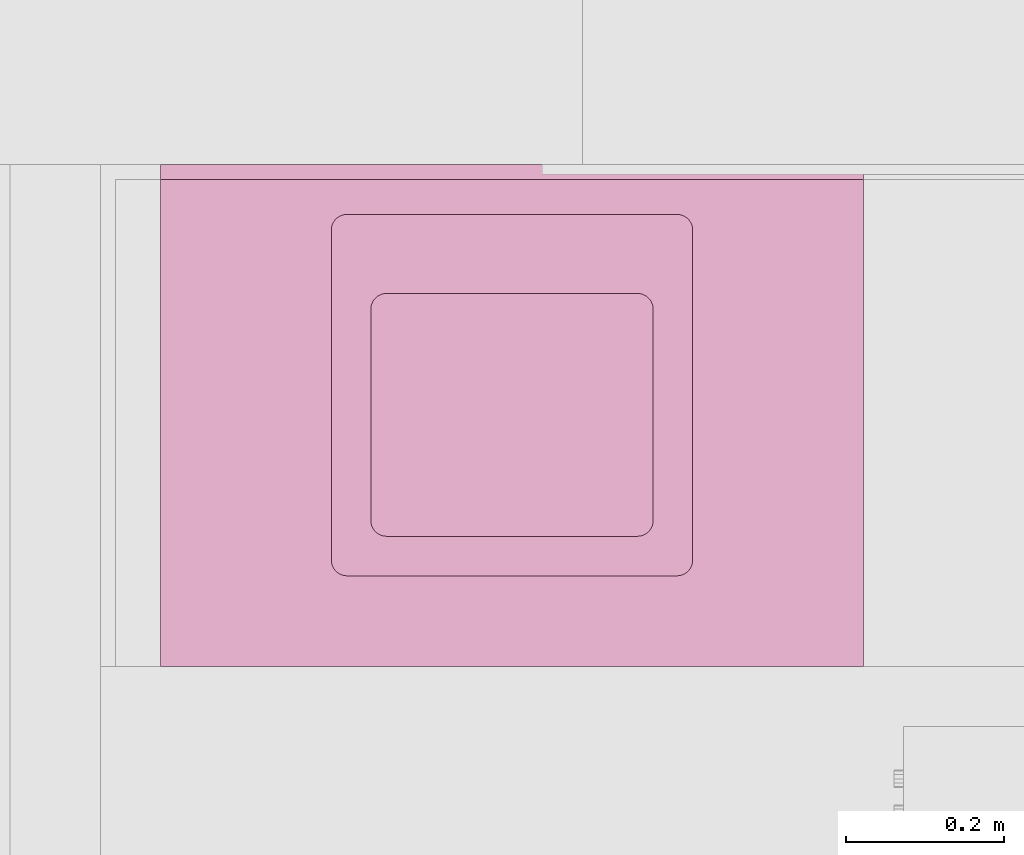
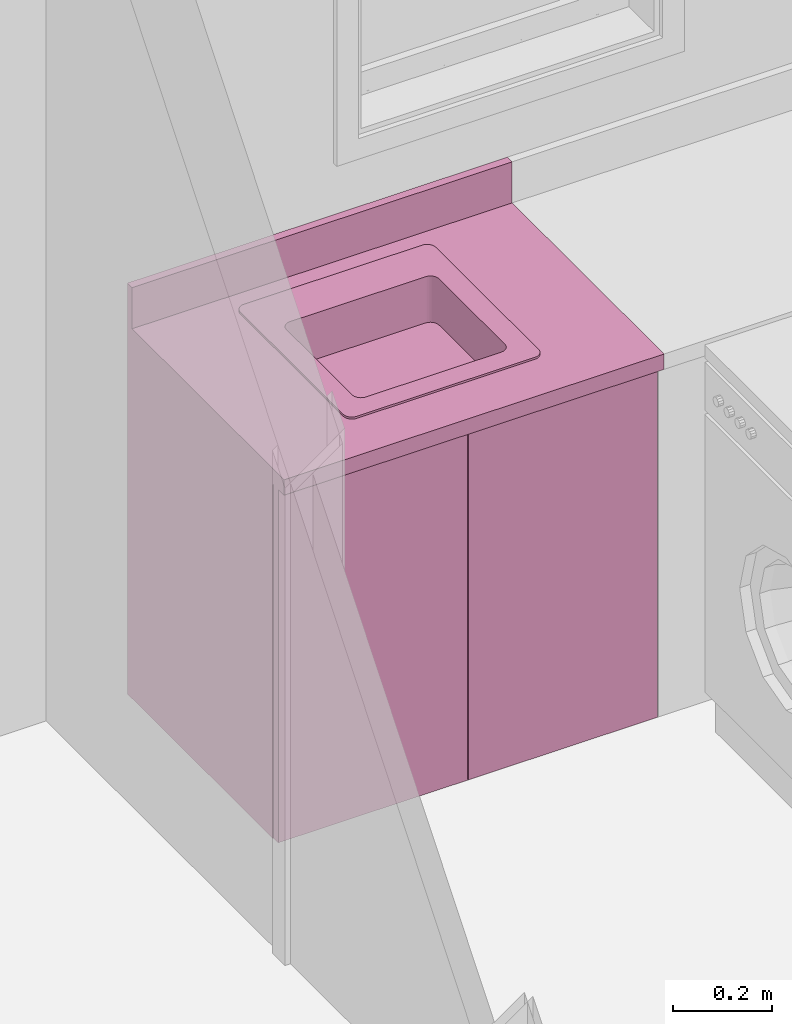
# One storey, part 53 of 103: 1 furnishing.
"""IFC2X3 building model written with IfcOpenShell, lengths in inches."""

from ifc_helpers import new_model, entity, si_unit, converted_unit, derived_unit, money_unit, direction, frame, origin_with_axes, place, context, subcontext, project, spatial, open_shell, faceted_brep, surface_model, type_object, element, save


model = new_model("IFC2X3")

# Units and contexts
model_context = context("Model", 3, precision=0.00039370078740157, world=origin_with_axes(), true_north=direction((0.0, 1.0)))
plan_context = context("Plan", 3, precision=0.00039370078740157, world=origin_with_axes(), true_north=direction((0.0, 1.0)))
body_context = subcontext(model_context, "Body", "Model", "MODEL_VIEW")
ifc_project = project(units=[converted_unit("LENGTHUNIT", "INCH", entity("IfcPositiveLengthMeasure", 0.0254), si_unit("LENGTHUNIT", "METRE"), dimensions=[1, 0, 0, 0, 0, 0, 0]), converted_unit("AREAUNIT", "SQUARE_FOOT", entity("IfcPositiveLengthMeasure", 0.09290304), si_unit("AREAUNIT", "SQUARE_METRE"), dimensions=[2, 0, 0, 0, 0, 0, 0]), si_unit("PLANEANGLEUNIT", "RADIAN"), si_unit("SOLIDANGLEUNIT", "STERADIAN"), money_unit("USD"), converted_unit("TIMEUNIT", "Year", entity("IfcTimeMeasure", 31557600.0), si_unit("TIMEUNIT", "SECOND"), dimensions=[0, 0, 1, 0, 0, 0, 0]), si_unit("MASSUNIT", "GRAM", prefix="KILO"), si_unit("THERMODYNAMICTEMPERATUREUNIT", "DEGREE_CELSIUS"), si_unit("LUMINOUSINTENSITYUNIT", "LUMEN"), si_unit("ENERGYUNIT", "JOULE", prefix="MEGA"), derived_unit("SPECIFICHEATCAPACITYUNIT", [(si_unit("ENERGYUNIT", "JOULE"), 1), (si_unit("MASSUNIT", "GRAM", prefix="KILO"), -1), (si_unit("THERMODYNAMICTEMPERATUREUNIT", "KELVIN"), -1)])], contexts=[model_context, plan_context])

# Site, building, storey
site_placement = place(None, origin_with_axes())
site = spatial("IfcSite", under=ifc_project, at=site_placement, Name="Site", CompositionType="ELEMENT")
building_placement = place(site_placement, origin_with_axes())
building = spatial("IfcBuilding", under=site, at=building_placement, Name="Building", CompositionType="ELEMENT")
storey_placement = place(building_placement, frame((0.0, 0.0, 127.9999999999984), z_axis=(0.0, 0.0, 1.0), x_axis=(1.0, 0.0, 0.0)))
storey = spatial("IfcBuildingStorey", under=building, at=storey_placement, Name="Second Floor", CompositionType="ELEMENT", Elevation=128.0)

# Furnishing
furniture_type = type_object("IfcFurnitureType", Name="Base Cabinet Block", AssemblyPlace="NOTDEFINED")
furnishing_placement = place(storey_placement, frame((167.9999999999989, 568.0000000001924, 0.0), z_axis=(0.0, 0.0, 1.0), x_axis=(1.0, 0.0, 0.0)))
element("IfcFurnishingElement", 1, at=furnishing_placement, inside=storey, type_object=furniture_type, Name="OBJ-16", context=body_context, shape_type="SurfaceModel", body=[
    faceted_brep([(0.0, 0.0, 34.49999999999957), (34.99999999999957, 0.0, 34.49999999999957), (34.99999999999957, -24.99999999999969, 34.49999999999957), (0.0, -24.99999999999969, 34.49999999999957), (25.70063602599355, -19.05602218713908, 34.49999999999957), (25.71259842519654, -18.91929133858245, 34.49999999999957), (25.71259842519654, -4.068897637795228, 34.49999999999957), (25.70063602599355, -3.932166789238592, 34.49999999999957), (25.66511229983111, -3.7995904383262, 34.49999999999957), (25.60710661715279, -3.675196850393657, 34.49999999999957), (25.52838145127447, -3.5627656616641, 34.49999999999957), (25.43132882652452, -3.465713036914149, 34.49999999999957), (25.31889763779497, -3.386987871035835, 34.49999999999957), (25.19450404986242, -3.328982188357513, 34.49999999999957), (25.06192769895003, -3.293458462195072, 34.49999999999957), (24.92519685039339, -3.281496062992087, 34.49999999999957), (10.07480314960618, -3.281496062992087, 34.49999999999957), (9.93807230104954, -3.293458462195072, 34.49999999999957), (9.805495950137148, -3.328982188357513, 34.49999999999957), (9.681102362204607, -3.386987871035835, 34.49999999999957), (9.568671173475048, -3.465713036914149, 34.49999999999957), (9.471618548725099, -3.5627656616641, 34.49999999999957), (9.392893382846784, -3.675196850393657, 34.49999999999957), (9.334887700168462, -3.7995904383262, 34.49999999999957), (9.299363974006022, -3.932166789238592, 34.49999999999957), (9.287401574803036, -4.068897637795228, 34.49999999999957), (9.287401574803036, -18.91929133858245, 34.49999999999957), (9.29936397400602, -19.05602218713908, 34.49999999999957), (9.334887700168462, -19.18859853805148, 34.49999999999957), (9.392893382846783, -19.31299212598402, 34.49999999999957), (9.471618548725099, -19.42542331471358, 34.49999999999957), (9.568671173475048, -19.52247593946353, 34.49999999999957), (9.681102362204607, -19.60120110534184, 34.49999999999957), (9.805495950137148, -19.65920678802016, 34.49999999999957), (9.93807230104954, -19.6947305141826, 34.49999999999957), (10.07480314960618, -19.70669291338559, 34.49999999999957), (24.92519685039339, -19.70669291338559, 34.49999999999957), (25.06192769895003, -19.6947305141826, 34.49999999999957), (25.19450404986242, -19.65920678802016, 34.49999999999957), (25.31889763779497, -19.60120110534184, 34.49999999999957), (25.43132882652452, -19.52247593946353, 34.49999999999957), (25.52838145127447, -19.42542331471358, 34.49999999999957), (25.60710661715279, -19.31299212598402, 34.49999999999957), (25.66511229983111, -19.18859853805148, 34.49999999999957), (0.0, 0.0, 35.99999999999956), (34.99999999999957, 0.0, 35.99999999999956), (34.99999999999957, -24.99999999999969, 35.99999999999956), (0.0, -24.99999999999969, 35.99999999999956), (25.70063602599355, -19.05602218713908, 35.99999999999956), (25.71259842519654, -18.91929133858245, 35.99999999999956), (25.71259842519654, -4.068897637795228, 35.99999999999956), (25.70063602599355, -3.932166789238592, 35.99999999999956), (25.66511229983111, -3.7995904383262, 35.99999999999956), (25.60710661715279, -3.675196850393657, 35.99999999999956), (25.52838145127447, -3.5627656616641, 35.99999999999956), (25.43132882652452, -3.465713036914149, 35.99999999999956), (25.31889763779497, -3.386987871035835, 35.99999999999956), (25.19450404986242, -3.328982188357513, 35.99999999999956), (25.06192769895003, -3.293458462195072, 35.99999999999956), (24.92519685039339, -3.281496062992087, 35.99999999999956), (10.07480314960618, -3.281496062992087, 35.99999999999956), (9.93807230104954, -3.293458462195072, 35.99999999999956), (9.805495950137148, -3.328982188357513, 35.99999999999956), (9.681102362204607, -3.386987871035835, 35.99999999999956), (9.568671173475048, -3.465713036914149, 35.99999999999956), (9.471618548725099, -3.5627656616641, 35.99999999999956), (9.392893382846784, -3.675196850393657, 35.99999999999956), (9.334887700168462, -3.7995904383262, 35.99999999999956), (9.299363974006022, -3.932166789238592, 35.99999999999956), (9.287401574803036, -4.068897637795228, 35.99999999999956), (9.287401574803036, -18.91929133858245, 35.99999999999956), (9.29936397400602, -19.05602218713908, 35.99999999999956), (9.334887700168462, -19.18859853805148, 35.99999999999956), (9.392893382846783, -19.31299212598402, 35.99999999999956), (9.471618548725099, -19.42542331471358, 35.99999999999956), (9.568671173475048, -19.52247593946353, 35.99999999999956), (9.681102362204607, -19.60120110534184, 35.99999999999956), (9.805495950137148, -19.65920678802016, 35.99999999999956), (9.93807230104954, -19.6947305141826, 35.99999999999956), (10.07480314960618, -19.70669291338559, 35.99999999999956), (24.92519685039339, -19.70669291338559, 35.99999999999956), (25.06192769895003, -19.6947305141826, 35.99999999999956), (25.19450404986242, -19.65920678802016, 35.99999999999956), (25.31889763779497, -19.60120110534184, 35.99999999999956), (25.43132882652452, -19.52247593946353, 35.99999999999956), (25.52838145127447, -19.42542331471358, 35.99999999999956), (25.60710661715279, -19.31299212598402, 35.99999999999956), (25.66511229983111, -19.18859853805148, 35.99999999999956)], [[[0, 1, 2, 3], [4, 5, 6, 7, 8, 9, 10, 11, 12, 13, 14, 15, 16, 17, 18, 19, 20, 21, 22, 23, 24, 25, 26, 27, 28, 29, 30, 31, 32, 33, 34, 35, 36, 37, 38, 39, 40, 41, 42, 43]], [[0, 44, 45, 1]], [[1, 45, 46, 2]], [[2, 46, 47, 3]], [[3, 47, 44, 0]], [[48, 49, 5, 4]], [[49, 50, 6, 5]], [[50, 51, 7, 6]], [[51, 52, 8, 7]], [[52, 53, 9, 8]], [[53, 54, 10, 9]], [[54, 55, 11, 10]], [[55, 56, 12, 11]], [[56, 57, 13, 12]], [[57, 58, 14, 13]], [[58, 59, 15, 14]], [[59, 60, 16, 15]], [[60, 61, 17, 16]], [[61, 62, 18, 17]], [[62, 63, 19, 18]], [[63, 64, 20, 19]], [[64, 65, 21, 20]], [[65, 66, 22, 21]], [[66, 67, 23, 22]], [[67, 68, 24, 23]], [[68, 69, 25, 24]], [[69, 70, 26, 25]], [[70, 71, 27, 26]], [[71, 72, 28, 27]], [[72, 73, 29, 28]], [[73, 74, 30, 29]], [[74, 75, 31, 30]], [[75, 76, 32, 31]], [[76, 77, 33, 32]], [[77, 78, 34, 33]], [[78, 79, 35, 34]], [[79, 80, 36, 35]], [[80, 81, 37, 36]], [[81, 82, 38, 37]], [[82, 83, 39, 38]], [[83, 84, 40, 39]], [[84, 85, 41, 40]], [[85, 86, 42, 41]], [[86, 87, 43, 42]], [[87, 48, 4, 43]], [[46, 45, 44, 47], [52, 51, 50, 49, 48, 87, 86, 85, 84, 83, 82, 81, 80, 79, 78, 77, 76, 75, 74, 73, 72, 71, 70, 69, 68, 67, 66, 65, 64, 63, 62, 61, 60, 59, 58, 57, 56, 55, 54, 53]]]),
    faceted_brep([(34.99999999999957, 0.0, 35.99999999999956), (34.99999999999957, -0.7499999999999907, 35.99999999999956), (0.0, -0.7499999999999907, 35.99999999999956), (0.0, 0.0, 35.99999999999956), (34.99999999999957, 0.0, 39.99999999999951), (34.99999999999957, -0.7499999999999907, 39.99999999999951), (0.0, -0.7499999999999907, 39.99999999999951), (0.0, 0.0, 39.99999999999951)], [[[0, 1, 2, 3]], [[0, 4, 5, 1]], [[1, 5, 6, 2]], [[3, 2, 6, 7]], [[4, 0, 3, 7]], [[5, 4, 7, 6]]]),
    surface_model("IfcShellBasedSurfaceModel", [(11.25590551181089, -18.52559055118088, 31.6968503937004), (23.74409448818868, -18.52559055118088, 31.6968503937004), (23.74409448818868, -18.52559055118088, 35.99999999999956), (11.25590551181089, -18.52559055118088, 35.99999999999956), (11.11917466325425, -18.51362815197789, 31.6968503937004), (10.98659831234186, -18.47810442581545, 31.6968503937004), (10.86220472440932, -18.42009874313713, 31.6968503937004), (10.74977353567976, -18.34137357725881, 31.6968503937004), (10.65272091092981, -18.24432095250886, 31.6968503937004), (10.57399574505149, -18.13188976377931, 31.6968503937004), (10.51599006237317, -18.00749617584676, 31.6968503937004), (10.48046633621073, -17.87491982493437, 31.6968503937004), (10.46850393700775, -17.73818897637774, 31.6968503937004), (10.46850393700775, -7.218503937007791, 31.6968503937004), (10.48046633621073, -7.081773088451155, 31.6968503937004), (10.51599006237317, -6.949196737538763, 31.6968503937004), (10.57399574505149, -6.82480314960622, 31.6968503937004), (10.65272091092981, -6.712371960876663, 31.6968503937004), (10.74977353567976, -6.615319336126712, 31.6968503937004), (10.86220472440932, -6.536594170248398, 31.6968503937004), (10.98659831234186, -6.478588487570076, 31.6968503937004), (11.11917466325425, -6.443064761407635, 31.6968503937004), (11.25590551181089, -6.431102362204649, 31.6968503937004), (23.74409448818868, -6.431102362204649, 31.6968503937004), (23.88082533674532, -6.443064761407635, 31.6968503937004), (24.01340168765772, -6.478588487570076, 31.6968503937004), (24.13779527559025, -6.536594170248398, 31.6968503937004), (24.25022646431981, -6.615319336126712, 31.6968503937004), (24.34727908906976, -6.712371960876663, 31.6968503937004), (24.42600425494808, -6.82480314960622, 31.6968503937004), (24.4840099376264, -6.949196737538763, 31.6968503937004), (24.51953366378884, -7.081773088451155, 31.6968503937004), (24.53149606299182, -7.218503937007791, 31.6968503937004), (24.53149606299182, -17.73818897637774, 31.6968503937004), (24.51953366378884, -17.87491982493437, 31.6968503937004), (24.4840099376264, -18.00749617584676, 31.6968503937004), (24.42600425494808, -18.13188976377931, 31.6968503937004), (24.34727908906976, -18.24432095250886, 31.6968503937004), (24.25022646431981, -18.34137357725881, 31.6968503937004), (24.13779527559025, -18.42009874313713, 31.6968503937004), (24.01340168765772, -18.47810442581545, 31.6968503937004), (23.88082533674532, -18.51362815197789, 31.6968503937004), (23.88082533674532, -18.51362815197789, 35.99999999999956), (11.11917466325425, -18.51362815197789, 35.99999999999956), (10.98659831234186, -18.47810442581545, 35.99999999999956), (10.86220472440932, -18.42009874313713, 35.99999999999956), (10.74977353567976, -18.34137357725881, 35.99999999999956), (10.65272091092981, -18.24432095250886, 35.99999999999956), (10.57399574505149, -18.13188976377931, 35.99999999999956), (10.51599006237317, -18.00749617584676, 35.99999999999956), (10.48046633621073, -17.87491982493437, 35.99999999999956), (10.46850393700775, -17.73818897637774, 35.99999999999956), (10.46850393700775, -7.218503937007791, 35.99999999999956), (10.48046633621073, -7.081773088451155, 35.99999999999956), (10.51599006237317, -6.949196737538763, 35.99999999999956), (10.57399574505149, -6.82480314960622, 35.99999999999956), (10.65272091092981, -6.712371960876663, 35.99999999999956), (10.74977353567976, -6.615319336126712, 35.99999999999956), (10.86220472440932, -6.536594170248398, 35.99999999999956), (10.98659831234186, -6.478588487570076, 35.99999999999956), (11.11917466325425, -6.443064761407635, 35.99999999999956), (11.25590551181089, -6.431102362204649, 35.99999999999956), (23.74409448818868, -6.431102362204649, 35.99999999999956), (23.88082533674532, -6.443064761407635, 35.99999999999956), (24.01340168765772, -6.478588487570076, 35.99999999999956), (24.13779527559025, -6.536594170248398, 35.99999999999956), (24.25022646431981, -6.615319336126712, 35.99999999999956), (24.34727908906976, -6.712371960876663, 35.99999999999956), (24.42600425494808, -6.82480314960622, 35.99999999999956), (24.4840099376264, -6.949196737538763, 35.99999999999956), (24.51953366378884, -7.081773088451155, 35.99999999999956), (24.53149606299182, -7.218503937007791, 35.99999999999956), (24.53149606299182, -17.73818897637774, 35.99999999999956), (24.51953366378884, -17.87491982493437, 35.99999999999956), (24.4840099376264, -18.00749617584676, 35.99999999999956), (24.42600425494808, -18.13188976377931, 35.99999999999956), (24.34727908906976, -18.24432095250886, 35.99999999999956), (24.25022646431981, -18.34137357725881, 35.99999999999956), (24.13779527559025, -18.42009874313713, 35.99999999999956), (24.01340168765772, -18.47810442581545, 35.99999999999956)], [open_shell([[[0, 1, 2, 3]], [[0, 4, 5, 6, 7, 8, 9, 10, 11, 12, 13, 14, 15, 16, 17, 18, 19, 20, 21, 22, 23, 24, 25, 26, 27, 28, 29, 30, 31, 32, 33, 34, 35, 36, 37, 38, 39, 40, 41, 1]], [[1, 41, 42, 2]], [[4, 0, 3, 43]], [[5, 4, 43, 44]], [[6, 5, 44, 45]], [[7, 6, 45, 46]], [[8, 7, 46, 47]], [[9, 8, 47, 48]], [[10, 9, 48, 49]], [[11, 10, 49, 50]], [[12, 11, 50, 51]], [[13, 12, 51, 52]], [[14, 13, 52, 53]], [[15, 14, 53, 54]], [[16, 15, 54, 55]], [[17, 16, 55, 56]], [[18, 17, 56, 57]], [[19, 18, 57, 58]], [[20, 19, 58, 59]], [[21, 20, 59, 60]], [[22, 21, 60, 61]], [[23, 22, 61, 62]], [[24, 23, 62, 63]], [[25, 24, 63, 64]], [[26, 25, 64, 65]], [[27, 26, 65, 66]], [[28, 27, 66, 67]], [[29, 28, 67, 68]], [[30, 29, 68, 69]], [[31, 30, 69, 70]], [[32, 31, 70, 71]], [[33, 32, 71, 72]], [[34, 33, 72, 73]], [[35, 34, 73, 74]], [[36, 35, 74, 75]], [[37, 36, 75, 76]], [[38, 37, 76, 77]], [[39, 38, 77, 78]], [[40, 39, 78, 79]], [[41, 40, 79, 42]]])]),
    faceted_brep([(9.287401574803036, -20.49409448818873, 35.99999999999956), (25.71259842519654, -20.49409448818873, 35.99999999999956), (25.71259842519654, -20.49409448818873, 36.19685039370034), (9.287401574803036, -20.49409448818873, 36.19685039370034), (9.1506707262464, -20.48213208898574, 35.99999999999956), (9.018094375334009, -20.4466083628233, 35.99999999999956), (8.893700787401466, -20.38860268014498, 35.99999999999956), (8.781269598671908, -20.30987751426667, 35.99999999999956), (8.684216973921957, -20.21282488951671, 35.99999999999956), (8.605491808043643, -20.10039370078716, 35.99999999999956), (8.547486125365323, -19.97600011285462, 35.99999999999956), (8.511962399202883, -19.84342376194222, 35.99999999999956), (8.499999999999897, -19.70669291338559, 35.99999999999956), (8.499999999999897, -3.28149606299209, 35.99999999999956), (8.511962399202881, -3.144765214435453, 35.99999999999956), (8.547486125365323, -3.012188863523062, 35.99999999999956), (8.605491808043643, -2.887795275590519, 35.99999999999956), (8.684216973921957, -2.775364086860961, 35.99999999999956), (8.781269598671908, -2.678311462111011, 35.99999999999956), (8.893700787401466, -2.599586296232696, 35.99999999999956), (9.018094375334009, -2.541580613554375, 35.99999999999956), (9.1506707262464, -2.506056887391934, 35.99999999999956), (9.287401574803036, -2.494094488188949, 35.99999999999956), (25.71259842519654, -2.494094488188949, 35.99999999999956), (25.84932927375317, -2.506056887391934, 35.99999999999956), (25.98190562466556, -2.541580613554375, 35.99999999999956), (26.10629921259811, -2.599586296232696, 35.99999999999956), (26.21873040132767, -2.678311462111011, 35.99999999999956), (26.31578302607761, -2.775364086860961, 35.99999999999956), (26.39450819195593, -2.887795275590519, 35.99999999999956), (26.45251387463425, -3.012188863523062, 35.99999999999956), (26.48803760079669, -3.144765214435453, 35.99999999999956), (26.49999999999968, -3.28149606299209, 35.99999999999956), (26.49999999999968, -19.70669291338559, 35.99999999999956), (26.48803760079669, -19.84342376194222, 35.99999999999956), (26.45251387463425, -19.97600011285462, 35.99999999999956), (26.39450819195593, -20.10039370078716, 35.99999999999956), (26.31578302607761, -20.21282488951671, 35.99999999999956), (26.21873040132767, -20.30987751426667, 35.99999999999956), (26.10629921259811, -20.38860268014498, 35.99999999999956), (25.98190562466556, -20.4466083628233, 35.99999999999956), (25.84932927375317, -20.48213208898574, 35.99999999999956), (11.25590551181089, -18.52559055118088, 35.99999999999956), (23.74409448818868, -18.52559055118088, 35.99999999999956), (23.88082533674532, -18.51362815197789, 35.99999999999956), (24.01340168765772, -18.47810442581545, 35.99999999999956), (24.13779527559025, -18.42009874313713, 35.99999999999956), (24.25022646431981, -18.34137357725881, 35.99999999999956), (24.34727908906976, -18.24432095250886, 35.99999999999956), (24.42600425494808, -18.13188976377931, 35.99999999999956), (24.4840099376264, -18.00749617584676, 35.99999999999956), (24.51953366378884, -17.87491982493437, 35.99999999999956), (24.53149606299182, -17.73818897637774, 35.99999999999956), (24.53149606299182, -7.218503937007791, 35.99999999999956), (24.51953366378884, -7.081773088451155, 35.99999999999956), (24.4840099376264, -6.949196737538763, 35.99999999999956), (24.42600425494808, -6.82480314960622, 35.99999999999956), (24.34727908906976, -6.712371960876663, 35.99999999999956), (24.25022646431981, -6.615319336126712, 35.99999999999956), (24.13779527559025, -6.536594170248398, 35.99999999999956), (24.01340168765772, -6.478588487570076, 35.99999999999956), (23.88082533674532, -6.443064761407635, 35.99999999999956), (23.74409448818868, -6.431102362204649, 35.99999999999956), (11.25590551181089, -6.431102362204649, 35.99999999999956), (11.11917466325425, -6.443064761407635, 35.99999999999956), (10.98659831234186, -6.478588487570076, 35.99999999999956), (10.86220472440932, -6.536594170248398, 35.99999999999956), (10.74977353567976, -6.615319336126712, 35.99999999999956), (10.65272091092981, -6.712371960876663, 35.99999999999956), (10.57399574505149, -6.82480314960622, 35.99999999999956), (10.51599006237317, -6.949196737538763, 35.99999999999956), (10.48046633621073, -7.081773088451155, 35.99999999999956), (10.46850393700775, -7.218503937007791, 35.99999999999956), (10.46850393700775, -17.73818897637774, 35.99999999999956), (10.48046633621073, -17.87491982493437, 35.99999999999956), (10.51599006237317, -18.00749617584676, 35.99999999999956), (10.57399574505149, -18.13188976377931, 35.99999999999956), (10.65272091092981, -18.24432095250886, 35.99999999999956), (10.74977353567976, -18.34137357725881, 35.99999999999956), (10.86220472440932, -18.42009874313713, 35.99999999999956), (10.98659831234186, -18.47810442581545, 35.99999999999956), (11.11917466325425, -18.51362815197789, 35.99999999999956), (25.84932927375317, -20.48213208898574, 36.19685039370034), (25.98190562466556, -20.4466083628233, 36.19685039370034), (26.10629921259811, -20.38860268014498, 36.19685039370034), (26.21873040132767, -20.30987751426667, 36.19685039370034), (26.31578302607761, -20.21282488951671, 36.19685039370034), (26.39450819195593, -20.10039370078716, 36.19685039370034), (26.45251387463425, -19.97600011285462, 36.19685039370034), (26.48803760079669, -19.84342376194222, 36.19685039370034), (26.49999999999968, -19.70669291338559, 36.19685039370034), (26.49999999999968, -3.28149606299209, 36.19685039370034), (26.48803760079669, -3.144765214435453, 36.19685039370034), (26.45251387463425, -3.012188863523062, 36.19685039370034), (26.39450819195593, -2.887795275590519, 36.19685039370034), (26.31578302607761, -2.775364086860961, 36.19685039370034), (26.21873040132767, -2.678311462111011, 36.19685039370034), (26.10629921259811, -2.599586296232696, 36.19685039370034), (25.98190562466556, -2.541580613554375, 36.19685039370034), (25.84932927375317, -2.506056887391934, 36.19685039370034), (25.71259842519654, -2.494094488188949, 36.19685039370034), (9.287401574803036, -2.494094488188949, 36.19685039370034), (9.1506707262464, -2.506056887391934, 36.19685039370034), (9.018094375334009, -2.541580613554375, 36.19685039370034), (8.893700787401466, -2.599586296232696, 36.19685039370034), (8.781269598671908, -2.678311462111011, 36.19685039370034), (8.684216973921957, -2.775364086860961, 36.19685039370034), (8.605491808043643, -2.887795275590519, 36.19685039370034), (8.547486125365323, -3.012188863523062, 36.19685039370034), (8.511962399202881, -3.144765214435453, 36.19685039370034), (8.499999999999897, -3.28149606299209, 36.19685039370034), (8.499999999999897, -19.70669291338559, 36.19685039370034), (8.511962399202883, -19.84342376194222, 36.19685039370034), (8.547486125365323, -19.97600011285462, 36.19685039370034), (8.605491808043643, -20.10039370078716, 36.19685039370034), (8.684216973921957, -20.21282488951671, 36.19685039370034), (8.781269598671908, -20.30987751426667, 36.19685039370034), (8.893700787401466, -20.38860268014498, 36.19685039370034), (9.018094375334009, -20.4466083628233, 36.19685039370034), (9.1506707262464, -20.48213208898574, 36.19685039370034), (11.25590551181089, -18.52559055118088, 36.19685039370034), (11.11917466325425, -18.51362815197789, 36.19685039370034), (10.98659831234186, -18.47810442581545, 36.19685039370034), (10.86220472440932, -18.42009874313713, 36.19685039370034), (10.74977353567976, -18.34137357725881, 36.19685039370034), (10.65272091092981, -18.24432095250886, 36.19685039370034), (10.57399574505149, -18.13188976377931, 36.19685039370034), (10.51599006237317, -18.00749617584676, 36.19685039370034), (10.48046633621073, -17.87491982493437, 36.19685039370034), (10.46850393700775, -17.73818897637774, 36.19685039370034), (10.46850393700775, -7.218503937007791, 36.19685039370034), (10.48046633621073, -7.081773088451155, 36.19685039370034), (10.51599006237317, -6.949196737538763, 36.19685039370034), (10.57399574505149, -6.82480314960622, 36.19685039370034), (10.65272091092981, -6.712371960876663, 36.19685039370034), (10.74977353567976, -6.615319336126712, 36.19685039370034), (10.86220472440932, -6.536594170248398, 36.19685039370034), (10.98659831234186, -6.478588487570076, 36.19685039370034), (11.11917466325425, -6.443064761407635, 36.19685039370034), (11.25590551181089, -6.431102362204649, 36.19685039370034), (23.74409448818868, -6.431102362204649, 36.19685039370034), (23.88082533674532, -6.443064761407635, 36.19685039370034), (24.01340168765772, -6.478588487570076, 36.19685039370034), (24.13779527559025, -6.536594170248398, 36.19685039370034), (24.25022646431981, -6.615319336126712, 36.19685039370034), (24.34727908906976, -6.712371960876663, 36.19685039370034), (24.42600425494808, -6.82480314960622, 36.19685039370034), (24.4840099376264, -6.949196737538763, 36.19685039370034), (24.51953366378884, -7.081773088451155, 36.19685039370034), (24.53149606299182, -7.218503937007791, 36.19685039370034), (24.53149606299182, -17.73818897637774, 36.19685039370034), (24.51953366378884, -17.87491982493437, 36.19685039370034), (24.4840099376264, -18.00749617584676, 36.19685039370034), (24.42600425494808, -18.13188976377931, 36.19685039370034), (24.34727908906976, -18.24432095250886, 36.19685039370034), (24.25022646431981, -18.34137357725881, 36.19685039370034), (24.13779527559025, -18.42009874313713, 36.19685039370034), (24.01340168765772, -18.47810442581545, 36.19685039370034), (23.88082533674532, -18.51362815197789, 36.19685039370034), (23.74409448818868, -18.52559055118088, 36.19685039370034)], [[[0, 1, 2, 3]], [[0, 4, 5, 6, 7, 8, 9, 10, 11, 12, 13, 14, 15, 16, 17, 18, 19, 20, 21, 22, 23, 24, 25, 26, 27, 28, 29, 30, 31, 32, 33, 34, 35, 36, 37, 38, 39, 40, 41, 1], [42, 43, 44, 45, 46, 47, 48, 49, 50, 51, 52, 53, 54, 55, 56, 57, 58, 59, 60, 61, 62, 63, 64, 65, 66, 67, 68, 69, 70, 71, 72, 73, 74, 75, 76, 77, 78, 79, 80, 81]], [[1, 41, 82, 2]], [[3, 2, 82, 83, 84, 85, 86, 87, 88, 89, 90, 91, 92, 93, 94, 95, 96, 97, 98, 99, 100, 101, 102, 103, 104, 105, 106, 107, 108, 109, 110, 111, 112, 113, 114, 115, 116, 117, 118, 119], [120, 121, 122, 123, 124, 125, 126, 127, 128, 129, 130, 131, 132, 133, 134, 135, 136, 137, 138, 139, 140, 141, 142, 143, 144, 145, 146, 147, 148, 149, 150, 151, 152, 153, 154, 155, 156, 157, 158, 159]], [[4, 0, 3, 119]], [[5, 4, 119, 118]], [[6, 5, 118, 117]], [[7, 6, 117, 116]], [[8, 7, 116, 115]], [[9, 8, 115, 114]], [[10, 9, 114, 113]], [[11, 10, 113, 112]], [[12, 11, 112, 111]], [[13, 12, 111, 110]], [[14, 13, 110, 109]], [[15, 14, 109, 108]], [[16, 15, 108, 107]], [[17, 16, 107, 106]], [[18, 17, 106, 105]], [[19, 18, 105, 104]], [[20, 19, 104, 103]], [[21, 20, 103, 102]], [[22, 21, 102, 101]], [[23, 22, 101, 100]], [[24, 23, 100, 99]], [[25, 24, 99, 98]], [[26, 25, 98, 97]], [[27, 26, 97, 96]], [[28, 27, 96, 95]], [[29, 28, 95, 94]], [[30, 29, 94, 93]], [[31, 30, 93, 92]], [[32, 31, 92, 91]], [[33, 32, 91, 90]], [[34, 33, 90, 89]], [[35, 34, 89, 88]], [[36, 35, 88, 87]], [[37, 36, 87, 86]], [[38, 37, 86, 85]], [[39, 38, 85, 84]], [[40, 39, 84, 83]], [[41, 40, 83, 82]], [[43, 42, 120, 159]], [[44, 43, 159, 158]], [[45, 44, 158, 157]], [[46, 45, 157, 156]], [[47, 46, 156, 155]], [[48, 47, 155, 154]], [[49, 48, 154, 153]], [[50, 49, 153, 152]], [[51, 50, 152, 151]], [[52, 51, 151, 150]], [[53, 52, 150, 149]], [[54, 53, 149, 148]], [[55, 54, 148, 147]], [[56, 55, 147, 146]], [[57, 56, 146, 145]], [[58, 57, 145, 144]], [[59, 58, 144, 143]], [[60, 59, 143, 142]], [[61, 60, 142, 141]], [[62, 61, 141, 140]], [[63, 62, 140, 139]], [[64, 63, 139, 138]], [[65, 64, 138, 137]], [[66, 65, 137, 136]], [[67, 66, 136, 135]], [[68, 67, 135, 134]], [[69, 68, 134, 133]], [[70, 69, 133, 132]], [[71, 70, 132, 131]], [[72, 71, 131, 130]], [[73, 72, 130, 129]], [[74, 73, 129, 128]], [[75, 74, 128, 127]], [[76, 75, 127, 126]], [[77, 76, 126, 125]], [[78, 77, 125, 124]], [[79, 78, 124, 123]], [[80, 79, 123, 122]], [[81, 80, 122, 121]], [[42, 81, 121, 120]]]),
    faceted_brep([(0.039370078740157, -23.24999999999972, 0.039370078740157), (17.46062992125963, -23.24999999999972, 0.039370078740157), (17.46062992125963, -23.99999999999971, 0.03937007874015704), (0.039370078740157, -23.99999999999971, 0.03937007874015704), (0.039370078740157, -23.24999999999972, 34.46062992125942), (17.46062992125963, -23.24999999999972, 34.46062992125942), (17.46062992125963, -23.9999999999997, 34.46062992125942), (0.039370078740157, -23.9999999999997, 34.46062992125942)], [[[0, 1, 2, 3]], [[0, 4, 5, 1]], [[1, 5, 6, 2]], [[3, 2, 6, 7]], [[4, 0, 3, 7]], [[5, 4, 7, 6]]]),
    faceted_brep([(34.96062992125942, -23.24999999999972, 0.03937007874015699), (34.96062992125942, -23.99999999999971, 0.03937007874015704), (17.53937007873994, -23.99999999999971, 0.0393700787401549), (17.53937007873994, -23.24999999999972, 0.03937007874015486), (34.96062992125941, -23.24999999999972, 34.46062992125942), (34.96062992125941, -23.9999999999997, 34.46062992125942), (17.53937007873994, -23.9999999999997, 34.46062992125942), (17.53937007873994, -23.24999999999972, 34.46062992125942)], [[[0, 1, 2, 3]], [[4, 5, 1, 0]], [[1, 5, 6, 2]], [[3, 2, 6, 7]], [[0, 3, 7, 4]], [[7, 6, 5, 4]]]),
    faceted_brep([(0.7499999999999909, -23.24999999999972, 0.0), (34.24999999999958, -23.24999999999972, 0.0), (34.24999999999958, -23.24999999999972, 0.7499999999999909), (0.7499999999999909, -23.24999999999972, 0.7499999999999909), (0.7499999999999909, 0.0, 0.0), (34.24999999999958, 0.0, 0.0), (34.24999999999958, 0.0, 0.7499999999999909), (0.7499999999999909, 0.0, 0.7499999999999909)], [[[0, 1, 2, 3]], [[0, 4, 5, 1]], [[1, 5, 6, 2]], [[3, 2, 6, 7]], [[4, 0, 3, 7]], [[5, 4, 7, 6]]]),
    faceted_brep([(0.7499999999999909, -23.24999999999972, 33.74999999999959), (0.7499999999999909, -20.8877952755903, 33.74999999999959), (34.24999999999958, -20.8877952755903, 33.74999999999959), (34.24999999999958, -23.24999999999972, 33.74999999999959), (0.7499999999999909, -23.24999999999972, 34.49999999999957), (0.7499999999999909, -20.8877952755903, 34.49999999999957), (34.24999999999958, -20.8877952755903, 34.49999999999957), (34.24999999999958, -23.24999999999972, 34.49999999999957)], [[[0, 1, 2, 3]], [[0, 4, 5, 1]], [[1, 5, 6, 2]], [[3, 2, 6, 7]], [[4, 0, 3, 7]], [[5, 4, 7, 6]]]),
    faceted_brep([(34.24999999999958, 0.0, 33.74999999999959), (34.24999999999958, -2.36220472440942, 33.74999999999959), (0.7499999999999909, -2.36220472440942, 33.74999999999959), (0.7499999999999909, 0.0, 33.74999999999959), (34.24999999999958, 0.0, 34.49999999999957), (34.24999999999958, -2.36220472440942, 34.49999999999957), (0.7499999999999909, -2.36220472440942, 34.49999999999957), (0.7499999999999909, 0.0, 34.49999999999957)], [[[0, 1, 2, 3]], [[0, 4, 5, 1]], [[1, 5, 6, 2]], [[3, 2, 6, 7]], [[4, 0, 3, 7]], [[5, 4, 7, 6]]]),
    faceted_brep([(0.0, 0.0, 0.0), (0.0, -23.24999999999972, 0.0), (0.0, -23.24999999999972, 34.49999999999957), (0.0, 0.0, 34.49999999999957), (0.7499999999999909, 0.0, 0.0), (0.7499999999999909, -23.24999999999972, 0.0), (0.7499999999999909, -23.24999999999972, 34.49999999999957), (0.7499999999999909, 0.0, 34.49999999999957)], [[[0, 1, 2, 3]], [[0, 4, 5, 1]], [[1, 5, 6, 2]], [[3, 2, 6, 7]], [[4, 0, 3, 7]], [[5, 4, 7, 6]]]),
    faceted_brep([(34.99999999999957, -23.24999999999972, 0.0), (34.99999999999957, 0.0, 0.0), (34.99999999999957, 0.0, 34.49999999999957), (34.99999999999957, -23.24999999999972, 34.49999999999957), (34.24999999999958, -23.24999999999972, 0.0), (34.24999999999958, 0.0, 0.0), (34.24999999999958, 0.0, 34.49999999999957), (34.24999999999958, -23.24999999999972, 34.49999999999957)], [[[0, 1, 2, 3]], [[0, 4, 5, 1]], [[1, 5, 6, 2]], [[3, 2, 6, 7]], [[4, 0, 3, 7]], [[5, 4, 7, 6]]]),
    faceted_brep([(34.24999999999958, -0.3749999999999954, 0.7499999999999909), (0.7499999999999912, -0.3749999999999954, 0.7499999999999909), (0.7499999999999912, -0.3749999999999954, 33.74999999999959), (34.24999999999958, -0.3749999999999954, 33.74999999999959), (34.24999999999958, -0.7499999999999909, 0.7499999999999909), (0.7499999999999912, -0.7499999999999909, 0.7499999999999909), (0.7499999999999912, -0.7499999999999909, 33.74999999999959), (34.24999999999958, -0.7499999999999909, 33.74999999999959)], [[[0, 1, 2, 3]], [[0, 4, 5, 1]], [[1, 5, 6, 2]], [[3, 2, 6, 7]], [[4, 0, 3, 7]], [[5, 4, 7, 6]]]),
])

save(model, "model.ifc")
